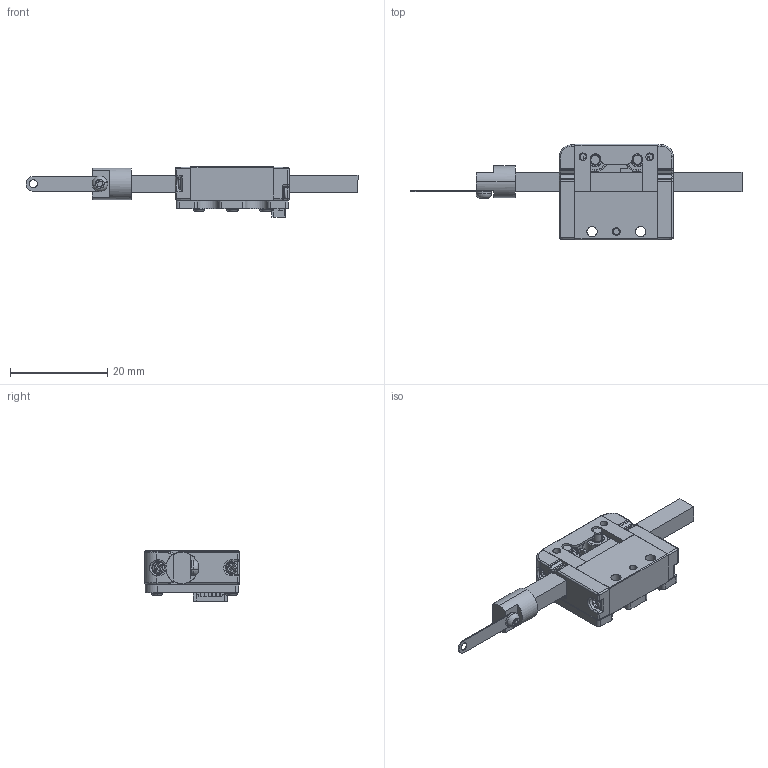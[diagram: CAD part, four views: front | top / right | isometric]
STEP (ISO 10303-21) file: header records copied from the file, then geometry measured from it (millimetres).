
FILE_DESCRIPTION (( 'STEP AP214' ), '1' );
FILE_NAME ('LL06A0_050M1G1E1-PiezoMotor.STEP', '2017-03-13T15:44:27', ( '' ), ( '' ), 'SwSTEP 2.0', 'SolidWorks 2016', '' );
FILE_SCHEMA (( 'AUTOMOTIVE_DESIGN' ));
Length unit declared in the file: millimetre
Products named in the file (3): LL06_DriveRod_050M1-PiezoMotor; LL06A0_xxxxxG1E1-PiezoMotor; LL06A0_050M1G1E1-PiezoMotor
Assembly tree (2 placements, depth 2):
  LL06A0_050M1G1E1-PiezoMotor
    LL06A0_xxxxxG1E1-PiezoMotor
    LL06_DriveRod_050M1-PiezoMotor
Bounding box: 68.15 x 19.6 x 10.35 mm (x, y, z)
Volume: 3343 mm3; surface area: 6489.1 mm2
Topology: 25 solids, 27 shells, 1388 faces, 3752 edges, 2411 vertices
Faces by surface type: plane 695, cylinder 332, torus 126, bspline 111, cone 95, sphere 29
Entity records: 49648 total; most frequent: CARTESIAN_POINT 13300, ORIENTED_EDGE 7414, DIRECTION 6629, EDGE_CURVE 3707, VERTEX_POINT 2391, AXIS2_PLACEMENT_3D 2299, VECTOR 2031, LINE 2031
